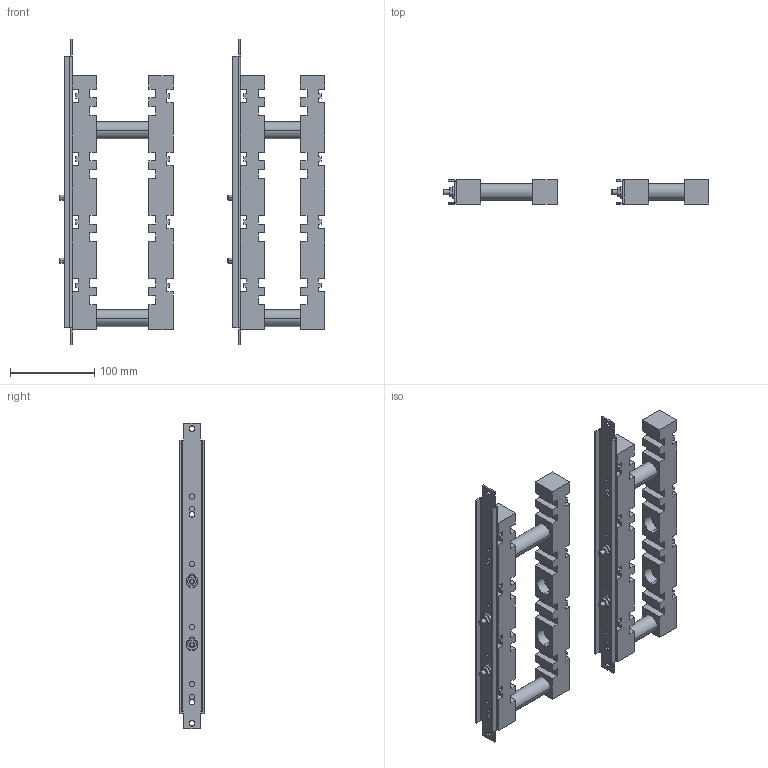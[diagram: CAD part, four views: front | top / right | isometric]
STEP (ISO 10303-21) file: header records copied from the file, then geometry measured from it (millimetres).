
FILE_DESCRIPTION((''),'2;1');
FILE_NAME('SB108882_3D_COLOUR','2013-08-12T',('SESA214371'),('Schneider-Electric'),'PRO/ENGINEER BY PARAMETRIC TECHNOLOGY CORPORATION, 2011410','PRO/ENGINEER BY PARAMETRIC TECHNOLOGY CORPORATION, 2011410','');
FILE_SCHEMA(('CONFIG_CONTROL_DESIGN'));
Length unit declared in the file: millimetre
Products named in the file (1): SB108882_3D_COLOUR
Bounding box: 315.3 x 29 x 363 mm (x, y, z)
Volume: 872428.7 mm3; surface area: 269706.1 mm2
Topology: 2 solids, 2 shells, 730 faces, 1868 edges, 1216 vertices
Faces by surface type: plane 494, cylinder 228, cone 8
Entity records: 22128 total; most frequent: CARTESIAN_POINT 3814, DIRECTION 3808, ORIENTED_EDGE 3736, EDGE_CURVE 1868, VECTOR 1388, LINE 1388, VERTEX_POINT 1216, AXIS2_PLACEMENT_3D 1210
